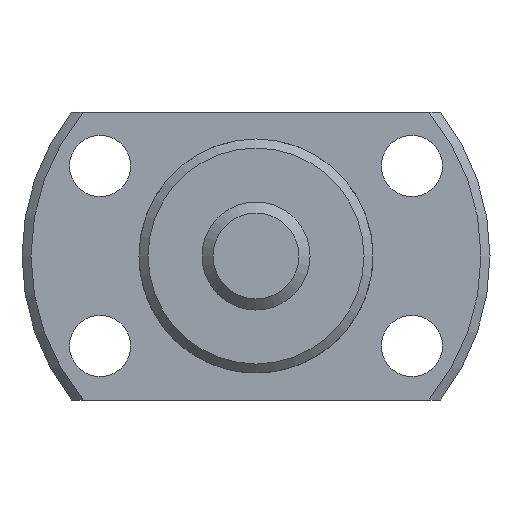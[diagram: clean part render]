
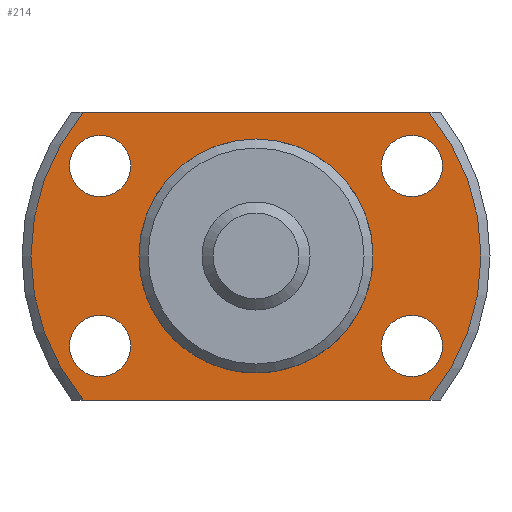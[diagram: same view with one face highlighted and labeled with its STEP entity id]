
A CAD part, left-side view. The second image highlights one B-rep face of the part: STEP entity #214.
In plain terms, the highlighted planar face has unit normal (-1, 0, 0) as drawn and (1, 0, 0) by its records, which use the part's own axes.
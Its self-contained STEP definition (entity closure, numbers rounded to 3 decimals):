
#214 = ADVANCED_FACE( '', ( #345, #346, #347, #348, #349, #350 ), #351, .T. );
#345 = FACE_OUTER_BOUND( '', #515, .T. );
#346 = FACE_BOUND( '', #516, .T. );
#347 = FACE_BOUND( '', #517, .T. );
#348 = FACE_BOUND( '', #518, .T. );
#349 = FACE_BOUND( '', #519, .T. );
#350 = FACE_BOUND( '', #520, .T. );
#351 = PLANE( '', #521 );
#515 = EDGE_LOOP( '', ( #896, #897, #898, #899 ) );
#516 = EDGE_LOOP( '', ( #900 ) );
#517 = EDGE_LOOP( '', ( #901 ) );
#518 = EDGE_LOOP( '', ( #902 ) );
#519 = EDGE_LOOP( '', ( #903 ) );
#520 = EDGE_LOOP( '', ( #904 ) );
#521 = AXIS2_PLACEMENT_3D( '', #905, #906, #907 );
#896 = ORIENTED_EDGE( '', *, *, #1168, .T. );
#897 = ORIENTED_EDGE( '', *, *, #1163, .T. );
#898 = ORIENTED_EDGE( '', *, *, #1162, .T. );
#899 = ORIENTED_EDGE( '', *, *, #1169, .T. );
#900 = ORIENTED_EDGE( '', *, *, #1170, .F. );
#901 = ORIENTED_EDGE( '', *, *, #1167, .F. );
#902 = ORIENTED_EDGE( '', *, *, #1171, .F. );
#903 = ORIENTED_EDGE( '', *, *, #1172, .F. );
#904 = ORIENTED_EDGE( '', *, *, #1173, .F. );
#905 = CARTESIAN_POINT( '', ( 4., 6.3, 0. ) );
#906 = DIRECTION( '', ( 1., 0., 0. ) );
#907 = DIRECTION( '', ( 0., 0., -1. ) );
#1162 = EDGE_CURVE( '', #1368, #1381, #1383, .T. );
#1163 = EDGE_CURVE( '', #1384, #1368, #1385, .T. );
#1167 = EDGE_CURVE( '', #1391, #1391, #1392, .T. );
#1168 = EDGE_CURVE( '', #1393, #1384, #1394, .T. );
#1169 = EDGE_CURVE( '', #1381, #1393, #1395, .T. );
#1170 = EDGE_CURVE( '', #1396, #1396, #1397, .T. );
#1171 = EDGE_CURVE( '', #1398, #1398, #1399, .T. );
#1172 = EDGE_CURVE( '', #1400, #1400, #1401, .T. );
#1173 = EDGE_CURVE( '', #1402, #1402, #1403, .T. );
#1368 = VERTEX_POINT( '', #1690 );
#1381 = VERTEX_POINT( '', #1715 );
#1383 = LINE( '', #1720, #1721 );
#1384 = VERTEX_POINT( '', #1722 );
#1385 = CIRCLE( '', #1723, 12.5 );
#1391 = VERTEX_POINT( '', #1732 );
#1392 = CIRCLE( '', #1733, 1.7 );
#1393 = VERTEX_POINT( '', #1734 );
#1394 = LINE( '', #1735, #1736 );
#1395 = CIRCLE( '', #1737, 12.5 );
#1396 = VERTEX_POINT( '', #1738 );
#1397 = CIRCLE( '', #1739, 6.3 );
#1398 = VERTEX_POINT( '', #1740 );
#1399 = CIRCLE( '', #1741, 1.7 );
#1400 = VERTEX_POINT( '', #1742 );
#1401 = CIRCLE( '', #1743, 1.7 );
#1402 = VERTEX_POINT( '', #1744 );
#1403 = CIRCLE( '', #1745, 1.7 );
#1690 = CARTESIAN_POINT( '', ( 4., 9.605, 8. ) );
#1715 = CARTESIAN_POINT( '', ( 4., -9.605, 8. ) );
#1720 = CARTESIAN_POINT( '', ( 4., 13., 8. ) );
#1721 = VECTOR( '', #1983, 1000. );
#1722 = CARTESIAN_POINT( '', ( 4., 9.605, -8. ) );
#1723 = AXIS2_PLACEMENT_3D( '', #1984, #1985, #1986 );
#1732 = CARTESIAN_POINT( '', ( 4., 8.66, 3.3 ) );
#1733 = AXIS2_PLACEMENT_3D( '', #1993, #1994, #1995 );
#1734 = CARTESIAN_POINT( '', ( 4., -9.605, -8. ) );
#1735 = CARTESIAN_POINT( '', ( 4., -13., -8. ) );
#1736 = VECTOR( '', #1996, 1000. );
#1737 = AXIS2_PLACEMENT_3D( '', #1997, #1998, #1999 );
#1738 = CARTESIAN_POINT( '', ( 4., 0., -6.3 ) );
#1739 = AXIS2_PLACEMENT_3D( '', #2000, #2001, #2002 );
#1740 = CARTESIAN_POINT( '', ( 4., -8.66, 3.3 ) );
#1741 = AXIS2_PLACEMENT_3D( '', #2003, #2004, #2005 );
#1742 = CARTESIAN_POINT( '', ( 4., -8.66, -6.7 ) );
#1743 = AXIS2_PLACEMENT_3D( '', #2006, #2007, #2008 );
#1744 = CARTESIAN_POINT( '', ( 4., 8.66, -6.7 ) );
#1745 = AXIS2_PLACEMENT_3D( '', #2009, #2010, #2011 );
#1983 = DIRECTION( '', ( 0., -1., 0. ) );
#1984 = CARTESIAN_POINT( '', ( 4., 0., 0. ) );
#1985 = DIRECTION( '', ( 1., 0., 0. ) );
#1986 = DIRECTION( '', ( 0., 0., -1. ) );
#1993 = CARTESIAN_POINT( '', ( 4., 8.66, 5. ) );
#1994 = DIRECTION( '', ( 1., 0., 0. ) );
#1995 = DIRECTION( '', ( 0., 0., -1. ) );
#1996 = DIRECTION( '', ( 0., 1., 0. ) );
#1997 = CARTESIAN_POINT( '', ( 4., 0., 0. ) );
#1998 = DIRECTION( '', ( 1., 0., 0. ) );
#1999 = DIRECTION( '', ( 0., 0., -1. ) );
#2000 = CARTESIAN_POINT( '', ( 4., 0., 0. ) );
#2001 = DIRECTION( '', ( 1., 0., 0. ) );
#2002 = DIRECTION( '', ( 0., 0., -1. ) );
#2003 = CARTESIAN_POINT( '', ( 4., -8.66, 5. ) );
#2004 = DIRECTION( '', ( 1., 0., 0. ) );
#2005 = DIRECTION( '', ( 0., 0., -1. ) );
#2006 = CARTESIAN_POINT( '', ( 4., -8.66, -5. ) );
#2007 = DIRECTION( '', ( 1., 0., 0. ) );
#2008 = DIRECTION( '', ( 0., 0., -1. ) );
#2009 = CARTESIAN_POINT( '', ( 4., 8.66, -5. ) );
#2010 = DIRECTION( '', ( 1., 0., 0. ) );
#2011 = DIRECTION( '', ( 0., 0., -1. ) );
